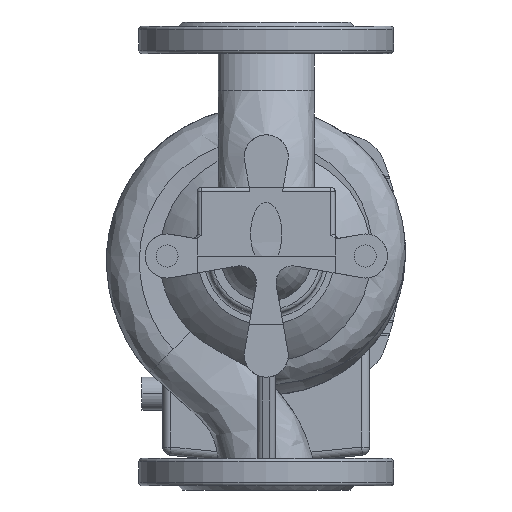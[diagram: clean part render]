
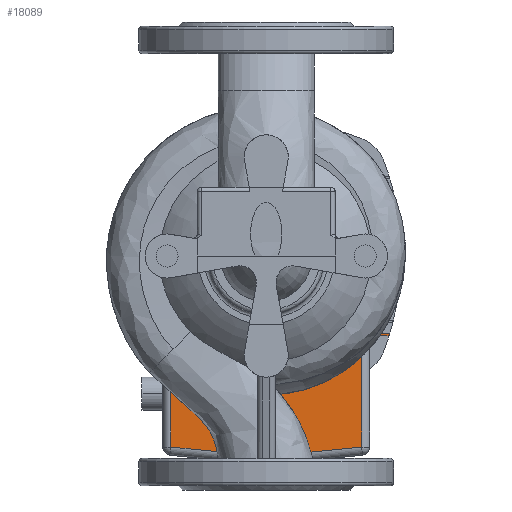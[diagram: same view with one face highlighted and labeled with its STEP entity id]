
A CAD part, front view. The second image highlights one B-rep face of the part: STEP entity #18089.
In plain terms, the highlighted planar face has unit normal (0, -1, 0) as drawn and (0, 0, 1) by its records, which use the part's own axes.
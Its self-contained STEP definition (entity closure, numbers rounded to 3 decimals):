
#113 = EDGE_LOOP ( 'NONE', ( #23439, #24736, #22254, #3979, #6946, #21448, #18324, #10405, #11012, #7379 ) ) ;
#491 = CARTESIAN_POINT ( 'NONE',  ( 61.937, 56., -106. ) ) ;
#576 = CARTESIAN_POINT ( 'NONE',  ( -98., 58., -106. ) ) ;
#850 = EDGE_CURVE ( 'NONE', #14558, #3019, #12904, .T. ) ;
#890 = PLANE ( 'NONE',  #4206 ) ;
#1304 = CARTESIAN_POINT ( 'NONE',  ( -69.25, 58., -106. ) ) ;
#1740 = EDGE_CURVE ( 'NONE', #11580, #21025, #15621, .T. ) ;
#1885 = VECTOR ( 'NONE', #5339, 1000. ) ;
#2070 = DIRECTION ( 'NONE',  ( 0., 0., 1. ) ) ;
#2077 = DIRECTION ( 'NONE',  ( 1., 0., 0. ) ) ;
#2346 = DIRECTION ( 'NONE',  ( 1., 0., 0. ) ) ;
#2684 = CIRCLE ( 'NONE', #22837, 196. ) ;
#3019 = VERTEX_POINT ( 'NONE', #1304 ) ;
#3174 = CARTESIAN_POINT ( 'NONE',  ( 89.222, 58., -106. ) ) ;
#3328 = DIRECTION ( 'NONE',  ( 1., 0., 0. ) ) ;
#3598 = VECTOR ( 'NONE', #19942, 1000. ) ;
#3645 = AXIS2_PLACEMENT_3D ( 'NONE', #8780, #2070, #20971 ) ;
#3807 = AXIS2_PLACEMENT_3D ( 'NONE', #15807, #5513, #3328 ) ;
#3979 = ORIENTED_EDGE ( 'NONE', *, *, #850, .T. ) ;
#4206 = AXIS2_PLACEMENT_3D ( 'NONE', #24041, #9242, #25963 ) ;
#4228 = VECTOR ( 'NONE', #21251, 1000. ) ;
#4451 = CARTESIAN_POINT ( 'NONE',  ( 69.25, 58., -106. ) ) ;
#4973 = VERTEX_POINT ( 'NONE', #8610 ) ;
#5339 = DIRECTION ( 'NONE',  ( 1., 0., 0. ) ) ;
#5513 = DIRECTION ( 'NONE',  ( 0., 0., -1. ) ) ;
#5596 = EDGE_CURVE ( 'NONE', #23525, #22621, #2684, .T. ) ;
#5908 = CARTESIAN_POINT ( 'NONE',  ( -69.25, 138.781, -106. ) ) ;
#5940 = CARTESIAN_POINT ( 'NONE',  ( -98., 58., -106. ) ) ;
#6357 = EDGE_CURVE ( 'NONE', #13648, #21863, #26115, .T. ) ;
#6946 = ORIENTED_EDGE ( 'NONE', *, *, #26008, .F. ) ;
#7076 = VECTOR ( 'NONE', #2346, 1000. ) ;
#7379 = ORIENTED_EDGE ( 'NONE', *, *, #5596, .T. ) ;
#8242 = CARTESIAN_POINT ( 'NONE',  ( -98., 0., -106. ) ) ;
#8520 = VECTOR ( 'NONE', #18347, 1000. ) ;
#8610 = CARTESIAN_POINT ( 'NONE',  ( -89.83, 56., -106. ) ) ;
#8731 = EDGE_CURVE ( 'NONE', #21863, #14558, #16130, .T. ) ;
#8780 = CARTESIAN_POINT ( 'NONE',  ( 98., 0., -106. ) ) ;
#9242 = DIRECTION ( 'NONE',  ( 0., 0., 1. ) ) ;
#9553 = CARTESIAN_POINT ( 'NONE',  ( 69.25, 138.781, -106. ) ) ;
#9998 = CARTESIAN_POINT ( 'NONE',  ( -98., 56., -106. ) ) ;
#10311 = DIRECTION ( 'NONE',  ( 0., 0., 1. ) ) ;
#10405 = ORIENTED_EDGE ( 'NONE', *, *, #1740, .T. ) ;
#10821 = CARTESIAN_POINT ( 'NONE',  ( 0., -318., -106. ) ) ;
#11012 = ORIENTED_EDGE ( 'NONE', *, *, #18703, .T. ) ;
#11327 = AXIS2_PLACEMENT_3D ( 'NONE', #10821, #13021, #17391 ) ;
#11580 = VERTEX_POINT ( 'NONE', #13958 ) ;
#12904 = LINE ( 'NONE', #19193, #4228 ) ;
#13021 = DIRECTION ( 'NONE',  ( 0., 0., 1. ) ) ;
#13648 = VERTEX_POINT ( 'NONE', #4451 ) ;
#13958 = CARTESIAN_POINT ( 'NONE',  ( -61.937, 56., -106. ) ) ;
#14558 = VERTEX_POINT ( 'NONE', #5908 ) ;
#15224 = LINE ( 'NONE', #576, #7076 ) ;
#15621 = CIRCLE ( 'NONE', #3807, 83.5 ) ;
#15693 = CARTESIAN_POINT ( 'NONE',  ( 69.25, 98., -106. ) ) ;
#15807 = CARTESIAN_POINT ( 'NONE',  ( 0., 0., -106. ) ) ;
#16130 = CIRCLE ( 'NONE', #11327, 462. ) ;
#16636 = CARTESIAN_POINT ( 'NONE',  ( -89.222, 58., -106. ) ) ;
#17391 = DIRECTION ( 'NONE',  ( 0., -1., 0. ) ) ;
#18089 = ADVANCED_FACE ( 'NONE', ( #26232 ), #890, .T. ) ;
#18127 = EDGE_CURVE ( 'NONE', #13648, #22621, #26507, .T. ) ;
#18324 = ORIENTED_EDGE ( 'NONE', *, *, #20528, .T. ) ;
#18347 = DIRECTION ( 'NONE',  ( 1., 0., 0. ) ) ;
#18551 = DIRECTION ( 'NONE',  ( 1., 0., 0. ) ) ;
#18630 = EDGE_CURVE ( 'NONE', #21292, #4973, #25515, .T. ) ;
#18703 = EDGE_CURVE ( 'NONE', #21025, #23525, #24249, .T. ) ;
#19193 = CARTESIAN_POINT ( 'NONE',  ( -69.25, 98., -106. ) ) ;
#19942 = DIRECTION ( 'NONE',  ( 0., 1., 0. ) ) ;
#20401 = LINE ( 'NONE', #9998, #8520 ) ;
#20528 = EDGE_CURVE ( 'NONE', #4973, #11580, #20401, .T. ) ;
#20971 = DIRECTION ( 'NONE',  ( 1., 0., 0. ) ) ;
#21025 = VERTEX_POINT ( 'NONE', #491 ) ;
#21251 = DIRECTION ( 'NONE',  ( 0., -1., 0. ) ) ;
#21292 = VERTEX_POINT ( 'NONE', #16636 ) ;
#21448 = ORIENTED_EDGE ( 'NONE', *, *, #18630, .T. ) ;
#21863 = VERTEX_POINT ( 'NONE', #9553 ) ;
#22067 = CARTESIAN_POINT ( 'NONE',  ( -98., 56., -106. ) ) ;
#22254 = ORIENTED_EDGE ( 'NONE', *, *, #8731, .T. ) ;
#22621 = VERTEX_POINT ( 'NONE', #3174 ) ;
#22837 = AXIS2_PLACEMENT_3D ( 'NONE', #8242, #10311, #2077 ) ;
#23038 = VECTOR ( 'NONE', #18551, 1000. ) ;
#23439 = ORIENTED_EDGE ( 'NONE', *, *, #18127, .F. ) ;
#23525 = VERTEX_POINT ( 'NONE', #24221 ) ;
#24041 = CARTESIAN_POINT ( 'NONE',  ( 56., 98., -106. ) ) ;
#24221 = CARTESIAN_POINT ( 'NONE',  ( 89.83, 56., -106. ) ) ;
#24249 = LINE ( 'NONE', #22067, #1885 ) ;
#24736 = ORIENTED_EDGE ( 'NONE', *, *, #6357, .T. ) ;
#25515 = CIRCLE ( 'NONE', #3645, 196. ) ;
#25963 = DIRECTION ( 'NONE',  ( 0., -1., 0. ) ) ;
#26008 = EDGE_CURVE ( 'NONE', #21292, #3019, #15224, .T. ) ;
#26115 = LINE ( 'NONE', #15693, #3598 ) ;
#26232 = FACE_OUTER_BOUND ( 'NONE', #113, .T. ) ;
#26507 = LINE ( 'NONE', #5940, #23038 ) ;
